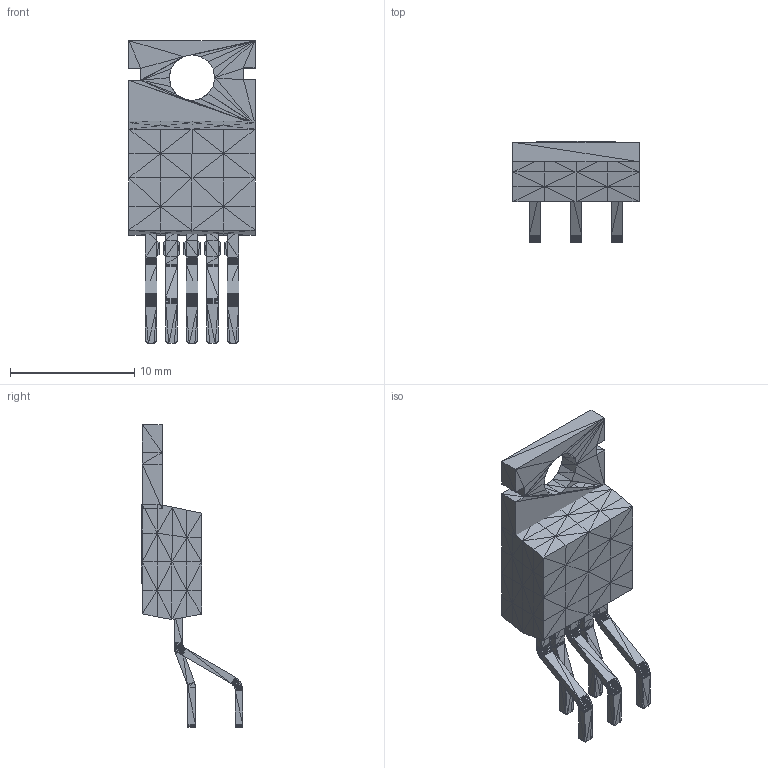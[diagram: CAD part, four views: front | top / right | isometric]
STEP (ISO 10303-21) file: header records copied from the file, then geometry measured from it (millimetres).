
FILE_DESCRIPTION(('HOOPS Exchange Step'),'2;1');
FILE_NAME('***.stp');
FILE_SCHEMA( ('AP242_MANAGED_MODEL_BASED_3D_ENGINEERING_MIM_LF {1 0 10303 442 1 1 4 }') );
Length unit declared in the file: inch
Products named in the file (9): TO-220_5_2; TO-220_5_3; TO-220_5_4; TO-220_5_5; TO-220_5_6; TO-220_5_7; TO-220_5_8; TO-220_5_9; TO-220_5
Assembly tree (8 placements, depth 2):
  TO-220_5
    TO-220_5_2
    TO-220_5_3
    TO-220_5_4
    TO-220_5_5
    TO-220_5_6
    TO-220_5_7
    TO-220_5_8
    TO-220_5_9
Bounding box: 10.16 x 8.17 x 24.37 mm (x, y, z)
Surface area: 1668.2 mm2 (no closed solid volume)
Topology: 0 solids, 3190 shells, 3190 faces, 7806 edges, 7420 vertices
Faces by surface type: plane 3190
Entity records: 96496 total; most frequent: CARTESIAN_POINT 18434, DIRECTION 14222, ORIENTED_EDGE 9570, VECTOR 7806, LINE 7806, EDGE_CURVE 7806, VERTEX_POINT 7420, AXIS2_PLACEMENT_3D 3208
